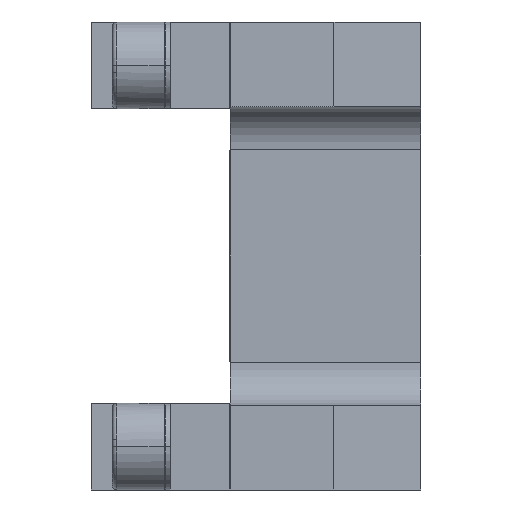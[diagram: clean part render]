
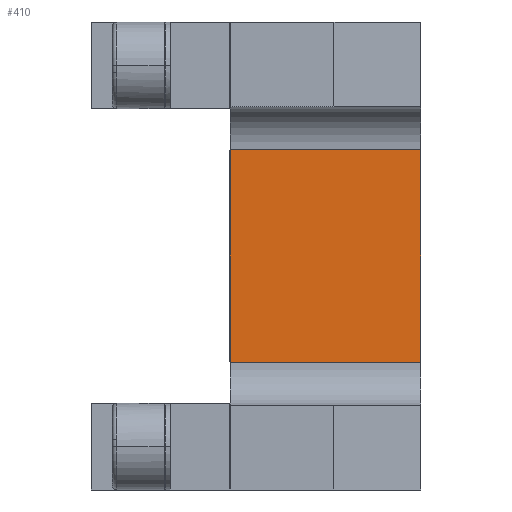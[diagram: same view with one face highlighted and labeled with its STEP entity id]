
A CAD part, front view. The second image highlights one B-rep face of the part: STEP entity #410.
In plain terms, the highlighted planar face has unit normal (0, -1, 0).
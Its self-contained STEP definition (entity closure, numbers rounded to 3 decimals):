
#147=CARTESIAN_POINT('Vertex',(22.,74.,12.25)) ;
#150=CARTESIAN_POINT('Line Origine',(22.,74.,0.)) ;
#154=CARTESIAN_POINT('Vertex',(22.,74.,-12.25)) ;
#368=CARTESIAN_POINT('Line Origine',(18.5,74.,-12.25)) ;
#372=CARTESIAN_POINT('Vertex',(0.,74.,-12.25)) ;
#387=CARTESIAN_POINT('Axis2P3D Location',(0.,74.,12.25)) ;
#392=CARTESIAN_POINT('Line Origine',(11.,74.,12.25)) ;
#396=CARTESIAN_POINT('Vertex',(0.,74.,12.25)) ;
#399=CARTESIAN_POINT('Line Origine',(0.,74.,0.)) ;
#151=DIRECTION('Vector Direction',(0.,0.,-1.)) ;
#369=DIRECTION('Vector Direction',(-1.,0.,0.)) ;
#388=DIRECTION('Axis2P3D Direction',(0.,-1.,0.)) ;
#389=DIRECTION('Axis2P3D XDirection',(0.,-0.,-1.)) ;
#393=DIRECTION('Vector Direction',(1.,0.,0.)) ;
#400=DIRECTION('Vector Direction',(0.,0.,-1.)) ;
#390=AXIS2_PLACEMENT_3D('Plane Axis2P3D',#387,#388,#389) ;
#405=ORIENTED_EDGE('',*,*,#398,.F.) ;
#406=ORIENTED_EDGE('',*,*,#403,.T.) ;
#407=ORIENTED_EDGE('',*,*,#374,.T.) ;
#408=ORIENTED_EDGE('',*,*,#156,.F.) ;
#152=VECTOR('Line Direction',#151,1.) ;
#370=VECTOR('Line Direction',#369,1.) ;
#394=VECTOR('Line Direction',#393,1.) ;
#401=VECTOR('Line Direction',#400,1.) ;
#410=ADVANCED_FACE('Brep With Voids',(#409),#391,.T.) ;
#156=EDGE_CURVE('',#148,#155,#153,.T.) ;
#374=EDGE_CURVE('',#373,#155,#371,.F.) ;
#398=EDGE_CURVE('',#397,#148,#395,.T.) ;
#403=EDGE_CURVE('',#397,#373,#402,.T.) ;
#404=EDGE_LOOP('',(#405,#406,#407,#408)) ;
#409=FACE_OUTER_BOUND('',#404,.T.) ;
#153=LINE('Line',#150,#152) ;
#371=LINE('Line',#368,#370) ;
#395=LINE('Line',#392,#394) ;
#402=LINE('Line',#399,#401) ;
#391=PLANE('Plane',#390) ;
#148=VERTEX_POINT('',#147) ;
#155=VERTEX_POINT('',#154) ;
#373=VERTEX_POINT('',#372) ;
#397=VERTEX_POINT('',#396) ;
